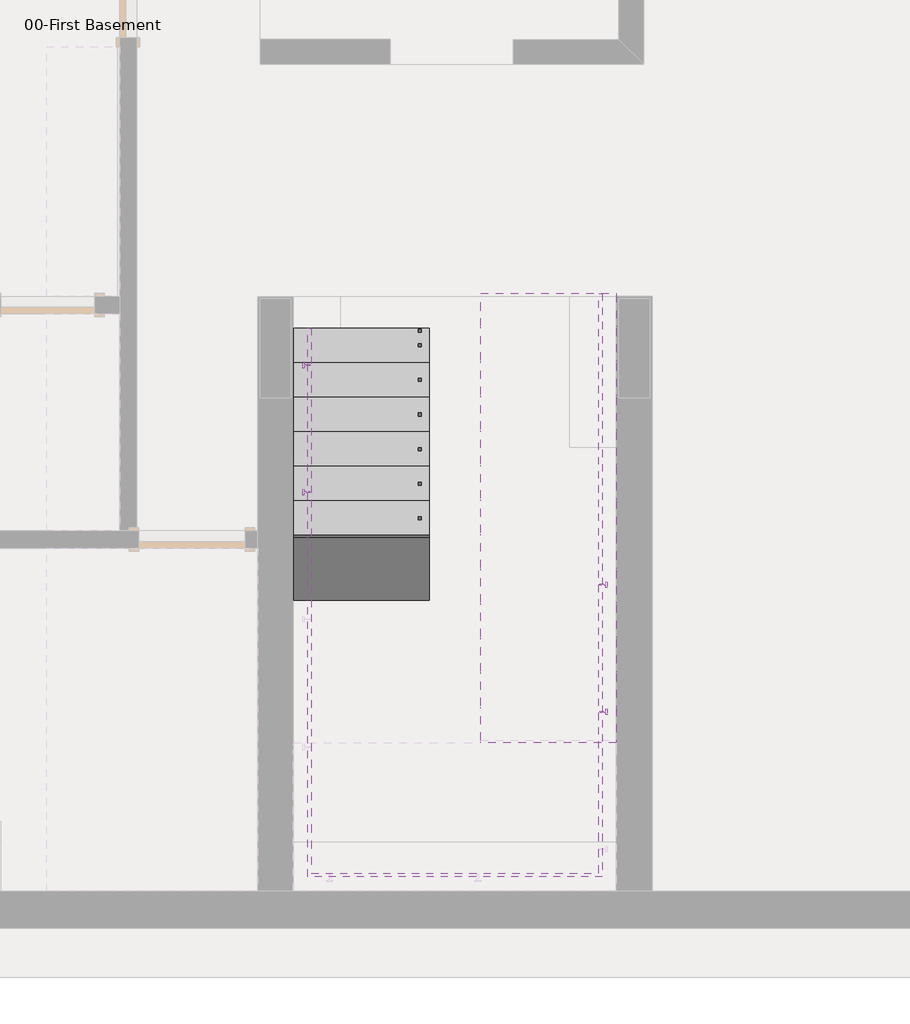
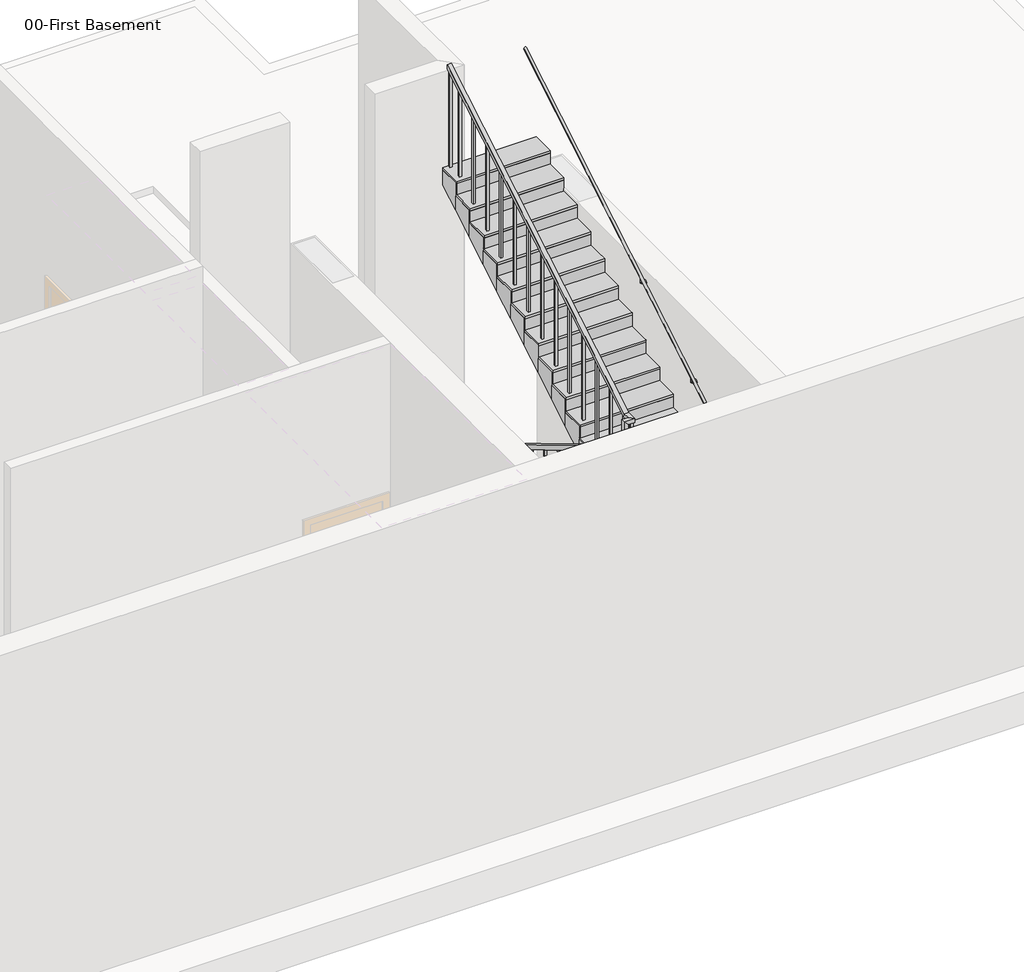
# One storey, part 5 of 5: 4 proxies, 2 railings, 2 stair flights.
"""IFC4 building model written with IfcOpenShell, lengths in millimetres."""

from ifc_helpers import new_model, si_unit, frame, origin, place, context, project, spatial, polyline, ellipse_curve, outline, extrude, faceted_brep, transform, mapped, element, save
from ifc_brep_helpers import plane_surface, cylinder_surface, advanced_brep
from components import m_support_metal_circular_m_support_metal_circular_cf76aa7a

model = new_model("IFC4")

# Units and contexts
model_context = context("Model", 3, world=origin())
ifc_project = project(units=[si_unit("LENGTHUNIT", "METRE", prefix="MILLI")], contexts=[model_context])

# Site, building, storey
site = spatial("IfcSite", under=ifc_project)
building = spatial("IfcBuilding", under=site)
storey = spatial("IfcBuildingStorey", under=building, Name="00-First Basement", Elevation=-4350.0)

# Proxies
placement = place(None, origin())
m_support_metal_circular_m_support_metal_circular_shape = m_support_metal_circular_m_support_metal_circular_cf76aa7a(model_context)
element("IfcBuildingElementProxy", 1, Name="M_Support - Metal - Circular : M_Support - Metal - Circular", ObjectType="M_Support - Metal - Circular : M_Support - Metal - Circular", at=placement, inside=storey, context=model_context, shape_type="MappedRepresentation", body=[
    mapped(m_support_metal_circular_m_support_metal_circular_shape, transform((-8914.3044414, -4401.6462217, -2934.2313798), x_axis=(0.0, 1.0, 0.0), y_axis=(-1.0, 0.0, 0.0), z_axis=(0.0, 0.0, 1.0))),
])
element("IfcBuildingElementProxy", 2, Name="M_Support - Metal - Circular : M_Support - Metal - Circular", ObjectType="M_Support - Metal - Circular : M_Support - Metal - Circular", at=placement, inside=storey, context=model_context, shape_type="MappedRepresentation", body=[
    mapped(m_support_metal_circular_m_support_metal_circular_shape, transform((-8914.3044414, -5431.7596977, -2318.7102781), x_axis=(0.0, 1.0, 0.0), y_axis=(-1.0, 0.0, 0.0), z_axis=(0.0, 0.0, 1.0))),
])
element("IfcBuildingElementProxy", 3, Name="M_Support - Metal - Circular : M_Support - Metal - Circular", ObjectType="M_Support - Metal - Circular : M_Support - Metal - Circular", at=placement, inside=storey, context=model_context, shape_type="MappedRepresentation", body=[
    mapped(m_support_metal_circular_m_support_metal_circular_shape, transform((-6558.2802351, -7211.9866496, -787.7165407), x_axis=(0.0, -1.0, 0.0), y_axis=(1.0, 0.0, 0.0), z_axis=(0.0, 0.0, 1.0))),
])
element("IfcBuildingElementProxy", 4, Name="M_Support - Metal - Circular : M_Support - Metal - Circular", ObjectType="M_Support - Metal - Circular : M_Support - Metal - Circular", at=placement, inside=storey, context=model_context, shape_type="MappedRepresentation", body=[
    mapped(m_support_metal_circular_m_support_metal_circular_shape, transform((-6558.2802351, -6181.8731737, -172.195439), x_axis=(0.0, -1.0, 0.0), y_axis=(1.0, 0.0, 0.0), z_axis=(0.0, 0.0, 1.0))),
])

# Railings
element("IfcRailing", 5, ObjectType="1100mm", at=placement, inside=storey, context=model_context, shape_type="SolidModel", body=[
    faceted_brep([(-7995.1044414, -4102.9805769, -2982.6923077), (-7995.1044414, -4102.9805769, -3040.9383179), (-8045.1044414, -4102.9805769, -3040.9383179), (-8045.1044414, -4102.9805769, -2982.6923077), (-7995.1044414, -7462.9805769, -975.0), (-7995.1044414, -7476.7807962, -1025.0), (-8045.1044414, -7476.7807962, -1025.0), (-8045.1044414, -7462.9805769, -975.0), (-7995.1044414, -7513.3805769, -975.0), (-7995.1044414, -7513.3805769, -1025.0), (-8045.1044414, -7563.3805769, -1025.0), (-8045.1044414, -7563.3805769, -975.0), (-7552.4802351, -7513.3805769, -975.0), (-7502.4802351, -7513.3805769, -1025.0), (-7502.4802351, -7563.3805769, -1025.0), (-7552.4802351, -7563.3805769, -975.0), (-7552.4802351, -7513.3805769, -792.9931319), (-7502.4802351, -7513.3805769, -842.9931319), (-7502.4802351, -7563.3805769, -842.9931319), (-7552.4802351, -7563.3805769, -792.9931319), (-7477.4802351, -7513.3805769, -792.9931319), (-7477.4802351, -7513.3805769, -842.9931319), (-7427.4802351, -7563.3805769, -842.9931319), (-7427.4802351, -7563.3805769, -792.9931319), (-7477.4802351, -7438.3805769, -792.9931319), (-7477.4802351, -7424.5803576, -842.9931319), (-7427.4802351, -7424.5803576, -842.9931319), (-7427.4802351, -7438.3805769, -792.9931319), (-7477.4802351, -3822.9805769, 1367.3076923), (-7427.4802351, -3822.9805769, 1367.3076923), (-7427.4802351, -3822.9805769, 1309.0616821), (-7477.4802351, -3822.9805769, 1309.0616821)], [[[0, 1, 2, 3]], [[1, 0, 4, 5]], [[2, 1, 5, 6]], [[3, 2, 6, 7]], [[0, 3, 7, 4]], [[5, 4, 8, 9]], [[6, 5, 9, 10]], [[7, 6, 10, 11]], [[4, 7, 11, 8]], [[9, 8, 12, 13]], [[10, 9, 13, 14]], [[11, 10, 14, 15]], [[8, 11, 15, 12]], [[13, 12, 16, 17]], [[14, 13, 17, 18]], [[15, 14, 18, 19]], [[12, 15, 19, 16]], [[17, 16, 20, 21]], [[18, 17, 21, 22]], [[19, 18, 22, 23]], [[16, 19, 23, 20]], [[21, 20, 24, 25]], [[22, 21, 25, 26]], [[23, 22, 26, 27]], [[20, 23, 27, 24]], [[28, 29, 30, 31]], [[25, 24, 28, 31]], [[26, 25, 31, 30]], [[27, 26, 30, 29]], [[24, 27, 29, 28]]]),
    extrude(outline(polyline([(-4050.8805769, 1172.8851711), (-4025.8805769, 1187.823358), (-4025.8805769, 100.0), (-4050.8805769, 100.0), (-4050.8805769, 1172.8851711)])), frame((-7464.9802351, 0.0, 0.0), z_axis=(1.0, 0.0, 0.0), x_axis=(0.0, 1.0, 0.0)), (0.0, 0.0, 1.0), 25.0),
    extrude(outline(polyline([(-4330.8805769, 1005.5774788), (-4305.8805769, 1020.5156657), (-4305.8805769, -67.3076923), (-4330.8805769, -67.3076923), (-4330.8805769, 1005.5774788)])), frame((-7464.9802351, 0.0, 0.0), z_axis=(1.0, 0.0, 0.0), x_axis=(0.0, 1.0, 0.0)), (0.0, 0.0, 1.0), 25.0),
    extrude(outline(polyline([(-4610.8805769, 838.2697865), (-4585.8805769, 853.2079733), (-4585.8805769, -234.6153846), (-4610.8805769, -234.6153846), (-4610.8805769, 838.2697865)])), frame((-7464.9802351, 0.0, 0.0), z_axis=(1.0, 0.0, 0.0), x_axis=(0.0, 1.0, 0.0)), (0.0, 0.0, 1.0), 25.0),
    extrude(outline(polyline([(-4890.8805769, 670.9620942), (-4865.8805769, 685.900281), (-4865.8805769, -401.9230769), (-4890.8805769, -401.9230769), (-4890.8805769, 670.9620942)])), frame((-7464.9802351, 0.0, 0.0), z_axis=(1.0, 0.0, 0.0), x_axis=(0.0, 1.0, 0.0)), (0.0, 0.0, 1.0), 25.0),
    extrude(outline(polyline([(-5170.8805769, 503.6544019), (-5145.8805769, 518.5925887), (-5145.8805769, -569.2307692), (-5170.8805769, -569.2307692), (-5170.8805769, 503.6544019)])), frame((-7464.9802351, 0.0, 0.0), z_axis=(1.0, 0.0, 0.0), x_axis=(0.0, 1.0, 0.0)), (0.0, 0.0, 1.0), 25.0),
    extrude(outline(polyline([(-5450.8805769, 336.3467096), (-5425.8805769, 351.2848964), (-5425.8805769, -736.5384615), (-5450.8805769, -736.5384615), (-5450.8805769, 336.3467096)])), frame((-7464.9802351, 0.0, 0.0), z_axis=(1.0, 0.0, 0.0), x_axis=(0.0, 1.0, 0.0)), (0.0, 0.0, 1.0), 25.0),
    extrude(outline(polyline([(-5730.8805769, 169.0390173), (-5705.8805769, 183.9772041), (-5705.8805769, -903.8461538), (-5730.8805769, -903.8461538), (-5730.8805769, 169.0390173)])), frame((-7464.9802351, 0.0, 0.0), z_axis=(1.0, 0.0, 0.0), x_axis=(0.0, 1.0, 0.0)), (0.0, 0.0, 1.0), 25.0),
    extrude(outline(polyline([(-6010.8805769, 1.731325), (-5985.8805769, 16.6695118), (-5985.8805769, -1071.1538462), (-6010.8805769, -1071.1538462), (-6010.8805769, 1.731325)])), frame((-7464.9802351, 0.0, 0.0), z_axis=(1.0, 0.0, 0.0), x_axis=(0.0, 1.0, 0.0)), (0.0, 0.0, 1.0), 25.0),
    extrude(outline(polyline([(-6290.8805769, -165.5763673), (-6265.8805769, -150.6381805), (-6265.8805769, -1238.4615385), (-6290.8805769, -1238.4615385), (-6290.8805769, -165.5763673)])), frame((-7464.9802351, 0.0, 0.0), z_axis=(1.0, 0.0, 0.0), x_axis=(0.0, 1.0, 0.0)), (0.0, 0.0, 1.0), 25.0),
    extrude(outline(polyline([(-6570.8805769, -332.8840596), (-6545.8805769, -317.9458728), (-6545.8805769, -1405.7692308), (-6570.8805769, -1405.7692308), (-6570.8805769, -332.8840596)])), frame((-7464.9802351, 0.0, 0.0), z_axis=(1.0, 0.0, 0.0), x_axis=(0.0, 1.0, 0.0)), (0.0, 0.0, 1.0), 25.0),
    extrude(outline(polyline([(-6850.8805769, -500.1917519), (-6825.8805769, -485.2535651), (-6825.8805769, -1573.0769231), (-6850.8805769, -1573.0769231), (-6850.8805769, -500.1917519)])), frame((-7464.9802351, 0.0, 0.0), z_axis=(1.0, 0.0, 0.0), x_axis=(0.0, 1.0, 0.0)), (0.0, 0.0, 1.0), 25.0),
    extrude(outline(polyline([(-7130.8805769, -667.4994442), (-7105.8805769, -652.5612574), (-7105.8805769, -1740.3846154), (-7130.8805769, -1740.3846154), (-7130.8805769, -667.4994442)])), frame((-7464.9802351, 0.0, 0.0), z_axis=(1.0, 0.0, 0.0), x_axis=(0.0, 1.0, 0.0)), (0.0, 0.0, 1.0), 25.0),
    extrude(outline(polyline([(-7410.8805769, -834.8071365), (-7385.8805769, -819.8689497), (-7385.8805769, -1907.6923077), (-7410.8805769, -1907.6923077), (-7410.8805769, -834.8071365)])), frame((-7464.9802351, 0.0, 0.0), z_axis=(1.0, 0.0, 0.0), x_axis=(0.0, 1.0, 0.0)), (0.0, 0.0, 1.0), 25.0),
    extrude(outline(polyline([(-7612.6044414, -7525.8805769), (-7587.6044414, -7525.8805769), (-7587.6044414, -7550.8805769), (-7612.6044414, -7550.8805769), (-7612.6044414, -7525.8805769)])), frame((0.0, 0.0, -2075.0), z_axis=(0.0, 0.0, 1.0), x_axis=(1.0, 0.0, 0.0)), (0.0, 0.0, 1.0), 1050.0),
    extrude(outline(polyline([(-7892.6044414, -7525.8805769), (-7867.6044414, -7525.8805769), (-7867.6044414, -7550.8805769), (-7892.6044414, -7550.8805769), (-7892.6044414, -7525.8805769)])), frame((0.0, 0.0, -2075.0), z_axis=(0.0, 0.0, 1.0), x_axis=(1.0, 0.0, 0.0)), (0.0, 0.0, 1.0), 1050.0),
    extrude(outline(polyline([(-7310.4805769, -2242.3076923), (-7335.4805769, -2242.3076923), (-7335.4805769, -1109.4307629), (-7310.4805769, -1124.3689497), (-7310.4805769, -2242.3076923)])), frame((-8032.6044414, 0.0, 0.0), z_axis=(1.0, 0.0, 0.0), x_axis=(0.0, 1.0, 0.0)), (0.0, 0.0, 1.0), 25.0),
    extrude(outline(polyline([(-7030.4805769, -2409.6153846), (-7055.4805769, -2409.6153846), (-7055.4805769, -1276.7384552), (-7030.4805769, -1291.676642), (-7030.4805769, -2409.6153846)])), frame((-8032.6044414, 0.0, 0.0), z_axis=(1.0, 0.0, 0.0), x_axis=(0.0, 1.0, 0.0)), (0.0, 0.0, 1.0), 25.0),
    extrude(outline(polyline([(-6750.4805769, -2576.9230769), (-6775.4805769, -2576.9230769), (-6775.4805769, -1444.0461475), (-6750.4805769, -1458.9843343), (-6750.4805769, -2576.9230769)])), frame((-8032.6044414, 0.0, 0.0), z_axis=(1.0, 0.0, 0.0), x_axis=(0.0, 1.0, 0.0)), (0.0, 0.0, 1.0), 25.0),
    extrude(outline(polyline([(-6470.4805769, -2744.2307692), (-6495.4805769, -2744.2307692), (-6495.4805769, -1611.3538398), (-6470.4805769, -1626.2920267), (-6470.4805769, -2744.2307692)])), frame((-8032.6044414, 0.0, 0.0), z_axis=(1.0, 0.0, 0.0), x_axis=(0.0, 1.0, 0.0)), (0.0, 0.0, 1.0), 25.0),
    extrude(outline(polyline([(-6190.4805769, -2911.5384615), (-6215.4805769, -2911.5384615), (-6215.4805769, -1778.6615322), (-6190.4805769, -1793.599719), (-6190.4805769, -2911.5384615)])), frame((-8032.6044414, 0.0, 0.0), z_axis=(1.0, 0.0, 0.0), x_axis=(0.0, 1.0, 0.0)), (0.0, 0.0, 1.0), 25.0),
    extrude(outline(polyline([(-5910.4805769, -3078.8461538), (-5935.4805769, -3078.8461538), (-5935.4805769, -1945.9692245), (-5910.4805769, -1960.9074113), (-5910.4805769, -3078.8461538)])), frame((-8032.6044414, 0.0, 0.0), z_axis=(1.0, 0.0, 0.0), x_axis=(0.0, 1.0, 0.0)), (0.0, 0.0, 1.0), 25.0),
    extrude(outline(polyline([(-5630.4805769, -3246.1538462), (-5655.4805769, -3246.1538462), (-5655.4805769, -2113.2769168), (-5630.4805769, -2128.2151036), (-5630.4805769, -3246.1538462)])), frame((-8032.6044414, 0.0, 0.0), z_axis=(1.0, 0.0, 0.0), x_axis=(0.0, 1.0, 0.0)), (0.0, 0.0, 1.0), 25.0),
    extrude(outline(polyline([(-5350.4805769, -3413.4615385), (-5375.4805769, -3413.4615385), (-5375.4805769, -2280.5846091), (-5350.4805769, -2295.5227959), (-5350.4805769, -3413.4615385)])), frame((-8032.6044414, 0.0, 0.0), z_axis=(1.0, 0.0, 0.0), x_axis=(0.0, 1.0, 0.0)), (0.0, 0.0, 1.0), 25.0),
    extrude(outline(polyline([(-5070.4805769, -3580.7692308), (-5095.4805769, -3580.7692308), (-5095.4805769, -2447.8923014), (-5070.4805769, -2462.8304882), (-5070.4805769, -3580.7692308)])), frame((-8032.6044414, 0.0, 0.0), z_axis=(1.0, 0.0, 0.0), x_axis=(0.0, 1.0, 0.0)), (0.0, 0.0, 1.0), 25.0),
    extrude(outline(polyline([(-4790.4805769, -3748.0769231), (-4815.4805769, -3748.0769231), (-4815.4805769, -2615.1999937), (-4790.4805769, -2630.1381805), (-4790.4805769, -3748.0769231)])), frame((-8032.6044414, 0.0, 0.0), z_axis=(1.0, 0.0, 0.0), x_axis=(0.0, 1.0, 0.0)), (0.0, 0.0, 1.0), 25.0),
    extrude(outline(polyline([(-4510.4805769, -3915.3846154), (-4535.4805769, -3915.3846154), (-4535.4805769, -2782.507686), (-4510.4805769, -2797.4458728), (-4510.4805769, -3915.3846154)])), frame((-8032.6044414, 0.0, 0.0), z_axis=(1.0, 0.0, 0.0), x_axis=(0.0, 1.0, 0.0)), (0.0, 0.0, 1.0), 25.0),
    extrude(outline(polyline([(-4230.4805769, -4082.6923077), (-4255.4805769, -4082.6923077), (-4255.4805769, -2949.8153783), (-4230.4805769, -2964.7535651), (-4230.4805769, -4082.6923077)])), frame((-8032.6044414, 0.0, 0.0), z_axis=(1.0, 0.0, 0.0), x_axis=(0.0, 1.0, 0.0)), (0.0, 0.0, 1.0), 25.0),
    extrude(outline(polyline([(-7464.9802351, -7550.8805769), (-7464.9802351, -7525.8805769), (-7439.9802351, -7525.8805769), (-7439.9802351, -7550.8805769), (-7464.9802351, -7550.8805769)])), frame((0.0, 0.0, -2075.0), z_axis=(0.0, 0.0, 1.0), x_axis=(1.0, 0.0, 0.0)), (0.0, 0.0, 1.0), 1232.0068681),
    extrude(outline(polyline([(-8007.6044414, -7525.8805769), (-8007.6044414, -7550.8805769), (-8032.6044414, -7550.8805769), (-8032.6044414, -7525.8805769), (-8007.6044414, -7525.8805769)])), frame((0.0, 0.0, -2075.0), z_axis=(0.0, 0.0, 1.0), x_axis=(1.0, 0.0, 0.0)), (0.0, 0.0, 1.0), 1050.0),
    extrude(outline(polyline([(-7450.4805769, -2075.0), (-7475.4805769, -2075.0), (-7475.4805769, -1025.7769168), (-7450.4805769, -1040.7151036), (-7450.4805769, -2075.0)])), frame((-8032.6044414, 0.0, 0.0), z_axis=(1.0, 0.0, 0.0), x_axis=(0.0, 1.0, 0.0)), (0.0, 0.0, 1.0), 25.0),
    extrude(outline(polyline([(-3855.4805769, 1289.6420393), (-3830.4805769, 1304.5802261), (-3830.4805769, 100.0), (-3855.4805769, 100.0), (-3855.4805769, 1289.6420393)])), frame((-7464.9802351, 0.0, 0.0), z_axis=(1.0, 0.0, 0.0), x_axis=(0.0, 1.0, 0.0)), (0.0, 0.0, 1.0), 25.0),
    extrude(outline(polyline([(-4110.4805769, -4082.6923077), (-4135.4805769, -4082.6923077), (-4135.4805769, -3021.518675), (-4110.4805769, -3036.4568618), (-4110.4805769, -4082.6923077)])), frame((-8032.6044414, 0.0, 0.0), z_axis=(1.0, 0.0, 0.0), x_axis=(0.0, 1.0, 0.0)), (0.0, 0.0, 1.0), 25.0),
])
element("IfcRailing", 6, ObjectType="Wall Hang", at=placement, inside=storey, context=model_context, shape_type="AdvancedBrep", body=[
    advanced_brep(
    [(-8929.3044414, -4102.9805769, -3100.1661107), (-8899.3044414, -4102.9805769, -3100.1661107), (-8929.3044414, -7467.1206427, -1090.0), (-8899.3044414, -7467.1206427, -1090.0), (-8929.3044414, -8547.5805769, -1090.0), (-8899.3044414, -8517.5805769, -1090.0), (-6543.2802351, -8547.5805769, -1090.0), (-6573.2802351, -8517.5805769, -1090.0), (-6543.2802351, -7738.8405111, -1090.0), (-6573.2802351, -7738.8405111, -1090.0), (-6543.2802351, -3822.9805769, 1249.8338893), (-6573.2802351, -3822.9805769, 1249.8338893)],
    [
        (0, 1, ellipse_curve(frame((-8914.3044414, -4102.9805769, -3100.1661107), z_axis=(0.0, 1.0, 0.0), x_axis=(0.0, 0.0, -1.0)), 17.4738031, 15.0)),
        (1, 0, ellipse_curve(frame((-8914.3044414, -4102.9805769, -3100.1661107), z_axis=(0.0, 1.0, 0.0), x_axis=(0.0, 0.0, -1.0)), 17.4738031, 15.0)),
        (0, 2),
        (2, 3, ellipse_curve(frame((-8914.3044414, -7467.1206427, -1090.0), z_axis=(0.0, 0.9639574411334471, -0.26605648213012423), x_axis=(0.0, -0.2660564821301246, -0.9639574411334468)), 15.560853, 15.0)),
        (3, 1),
        (3, 2, ellipse_curve(frame((-8914.3044414, -7467.1206427, -1090.0), z_axis=(0.0, 0.9639574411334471, -0.26605648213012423), x_axis=(0.0, -0.2660564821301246, -0.9639574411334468)), 15.560853, 15.0)),
        (2, 4),
        (4, 5, ellipse_curve(frame((-8914.3044414, -8532.5805769, -1090.0), z_axis=(-0.7071067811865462, 0.7071067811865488, 0.0), x_axis=(0.7071067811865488, 0.7071067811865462, 0.0)), 21.2132034, 15.0)),
        (5, 3),
        (5, 4, ellipse_curve(frame((-8914.3044414, -8532.5805769, -1090.0), z_axis=(-0.7071067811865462, 0.7071067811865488, 0.0), x_axis=(0.7071067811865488, 0.7071067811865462, 0.0)), 21.2132034, 15.0)),
        (4, 6),
        (6, 7, ellipse_curve(frame((-6558.2802351, -8532.5805769, -1090.0), z_axis=(-0.7071067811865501, -0.7071067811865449, 0.0), x_axis=(-0.7071067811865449, 0.7071067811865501, 0.0)), 21.2132034, 15.0)),
        (7, 5),
        (7, 6, ellipse_curve(frame((-6558.2802351, -8532.5805769, -1090.0), z_axis=(-0.7071067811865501, -0.7071067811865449, 0.0), x_axis=(-0.7071067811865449, 0.7071067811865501, 0.0)), 21.2132034, 15.0)),
        (6, 8),
        (8, 9, ellipse_curve(frame((-6558.2802351, -7738.8405111, -1090.0), z_axis=(0.0, -0.963957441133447, -0.266056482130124), x_axis=(0.0, -0.2660564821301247, 0.9639574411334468)), 15.560853, 15.0)),
        (9, 7),
        (9, 8, ellipse_curve(frame((-6558.2802351, -7738.8405111, -1090.0), z_axis=(0.0, -0.963957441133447, -0.266056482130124), x_axis=(0.0, -0.2660564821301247, 0.9639574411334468)), 15.560853, 15.0)),
        (10, 11, ellipse_curve(frame((-6558.2802351, -3822.9805769, 1249.8338893), z_axis=(0.0, 1.0, 0.0), x_axis=(0.0, 0.0, -1.0)), 17.4738031, 15.0)),
        (11, 10, ellipse_curve(frame((-6558.2802351, -3822.9805769, 1249.8338893), z_axis=(0.0, 1.0, 0.0), x_axis=(0.0, 0.0, -1.0)), 17.4738031, 15.0)),
        (8, 10),
        (11, 9),
    ],
    [
        plane_surface(frame((-8914.3044414, -4102.9805769, -3082.6923077), z_axis=(0.0, 1.0, 0.0), x_axis=(0.0, 0.0, -1.0))),
        cylinder_surface(frame((-8914.3044414, -4110.6745907, -3095.5687261), z_axis=(0.0, 0.8584278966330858, -0.5129342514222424), x_axis=(1.0, 0.0, 0.0)), 15.0),
        cylinder_surface(frame((-8914.3044414, -7462.9805769, -1090.0), z_axis=(0.0, 1.0, 0.0), x_axis=(1.0, 0.0, 0.0)), 15.0),
        cylinder_surface(frame((-8914.3044414, -8532.5805769, -1090.0), z_axis=(-1.0, 0.0, 0.0), x_axis=(0.0, 1.0, 0.0)), 15.0),
        cylinder_surface(frame((-6558.2802351, -8532.5805769, -1090.0), z_axis=(0.0, -1.0, 0.0), x_axis=(-1.0, 0.0, 0.0)), 15.0),
        plane_surface(frame((-6558.2802351, -3822.9805769, 1267.3076923), z_axis=(0.0, 1.0, 0.0), x_axis=(0.0, 0.0, 1.0))),
        cylinder_surface(frame((-6558.2802351, -7735.2865631, -1087.8764184), z_axis=(0.0, -0.858427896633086, -0.512934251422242), x_axis=(-1.0, 0.0, 0.0)), 15.0),
    ],
    [
        (0, [[1, 2]]),
        (1, [[-1, 3, 4, 5]]),
        (1, [[-2, -5, 6, -3]]),
        (2, [[-4, 7, 8, 9]]),
        (2, [[-6, -9, 10, -7]]),
        (3, [[-8, 11, 12, 13]]),
        (3, [[-10, -13, 14, -11]]),
        (4, [[-12, 15, 16, 17]]),
        (4, [[-14, -17, 18, -15]]),
        (5, [[19, 20]]),
        (6, [[-16, 21, -20, 22]]),
        (6, [[-18, -22, -19, -21]]),
    ],
),
])

# Stair flights
element("IfcStairFlight", 7, ObjectType="150mm Depth", at=placement, inside=storey, context=model_context, shape_type="SolidModel", body=[
    faceted_brep([(-7944.7044414, -4402.9805769, -4112.6923077), (-7944.7044414, -4122.9805769, -4112.6923077), (-9044.7044414, -4122.9805769, -4112.6923077), (-9044.7044414, -4402.9805769, -4112.6923077), (-7944.7044414, -4402.9805769, -4287.4303382), (-7944.7044414, -4298.2662924, -4350.0), (-7944.7044414, -4122.9805769, -4350.0), (-9044.7044414, -4122.9805769, -4350.0), (-9044.7044414, -4298.2662924, -4350.0), (-9044.7044414, -4402.9805769, -4287.4303382), (-7944.7044414, -4682.9805769, -3945.3846154), (-7944.7044414, -4402.9805769, -3945.3846154), (-9044.7044414, -4402.9805769, -3945.3846154), (-9044.7044414, -4682.9805769, -3945.3846154), (-7944.7044414, -4682.9805769, -4120.1226459), (-9044.7044414, -4682.9805769, -4120.1226459), (-7944.7044414, -4962.9805769, -3778.0769231), (-7944.7044414, -4682.9805769, -3778.0769231), (-9044.7044414, -4682.9805769, -3778.0769231), (-9044.7044414, -4962.9805769, -3778.0769231), (-7944.7044414, -4962.9805769, -3952.8149536), (-9044.7044414, -4962.9805769, -3952.8149536), (-7944.7044414, -5242.9805769, -3610.7692308), (-7944.7044414, -4962.9805769, -3610.7692308), (-9044.7044414, -4962.9805769, -3610.7692308), (-9044.7044414, -5242.9805769, -3610.7692308), (-7944.7044414, -5242.9805769, -3785.5072613), (-9044.7044414, -5242.9805769, -3785.5072613), (-7944.7044414, -5522.9805769, -3443.4615385), (-7944.7044414, -5242.9805769, -3443.4615385), (-9044.7044414, -5242.9805769, -3443.4615385), (-9044.7044414, -5522.9805769, -3443.4615385), (-7944.7044414, -5522.9805769, -3618.199569), (-9044.7044414, -5522.9805769, -3618.199569), (-7944.7044414, -5802.9805769, -3276.1538462), (-7944.7044414, -5522.9805769, -3276.1538462), (-9044.7044414, -5522.9805769, -3276.1538462), (-9044.7044414, -5802.9805769, -3276.1538462), (-7944.7044414, -5802.9805769, -3450.8918767), (-9044.7044414, -5802.9805769, -3450.8918767), (-7944.7044414, -6082.9805769, -3108.8461538), (-7944.7044414, -5802.9805769, -3108.8461538), (-9044.7044414, -5802.9805769, -3108.8461538), (-9044.7044414, -6082.9805769, -3108.8461538), (-7944.7044414, -6082.9805769, -3283.5841844), (-9044.7044414, -6082.9805769, -3283.5841844), (-7944.7044414, -6362.9805769, -2941.5384615), (-7944.7044414, -6082.9805769, -2941.5384615), (-9044.7044414, -6082.9805769, -2941.5384615), (-9044.7044414, -6362.9805769, -2941.5384615), (-7944.7044414, -6362.9805769, -3116.2764921), (-9044.7044414, -6362.9805769, -3116.2764921), (-7944.7044414, -6642.9805769, -2774.2307692), (-7944.7044414, -6362.9805769, -2774.2307692), (-9044.7044414, -6362.9805769, -2774.2307692), (-9044.7044414, -6642.9805769, -2774.2307692), (-7944.7044414, -6642.9805769, -2948.9687997), (-9044.7044414, -6642.9805769, -2948.9687997), (-7944.7044414, -6922.9805769, -2606.9230769), (-7944.7044414, -6642.9805769, -2606.9230769), (-9044.7044414, -6642.9805769, -2606.9230769), (-9044.7044414, -6922.9805769, -2606.9230769), (-7944.7044414, -6922.9805769, -2781.6611074), (-9044.7044414, -6922.9805769, -2781.6611074), (-7944.7044414, -7202.9805769, -2439.6153846), (-7944.7044414, -6922.9805769, -2439.6153846), (-9044.7044414, -6922.9805769, -2439.6153846), (-9044.7044414, -7202.9805769, -2439.6153846), (-7944.7044414, -7202.9805769, -2614.3534151), (-9044.7044414, -7202.9805769, -2614.3534151), (-7944.7044414, -7482.9805769, -2447.0457228), (-9044.7044414, -7482.9805769, -2447.0457228), (-9044.7044414, -7462.9805769, -2458.9962723), (-7944.7044414, -7202.9805769, -2272.3076923), (-9044.7044414, -7202.9805769, -2272.3076923), (-9044.7044414, -7462.9805769, -2272.3076923), (-9044.7044414, -7482.9805769, -2272.3076923), (-7944.7044414, -7482.9805769, -2272.3076923), (-7944.7044414, -7462.9805769, -2272.3076923), (-7944.7044414, -7482.9805769, -2405.0)], [[[0, 1, 2, 3]], [[1, 0, 4, 5, 6]], [[2, 1, 6, 7]], [[3, 2, 7, 8, 9]], [[10, 11, 12, 13]], [[11, 10, 14, 4, 0]], [[0, 3, 12, 11]], [[13, 12, 3, 9, 15]], [[16, 17, 18, 19]], [[17, 16, 20, 14, 10]], [[10, 13, 18, 17]], [[19, 18, 13, 15, 21]], [[22, 23, 24, 25]], [[23, 22, 26, 20, 16]], [[16, 19, 24, 23]], [[25, 24, 19, 21, 27]], [[28, 29, 30, 31]], [[29, 28, 32, 26, 22]], [[22, 25, 30, 29]], [[31, 30, 25, 27, 33]], [[34, 35, 36, 37]], [[35, 34, 38, 32, 28]], [[28, 31, 36, 35]], [[37, 36, 31, 33, 39]], [[40, 41, 42, 43]], [[41, 40, 44, 38, 34]], [[34, 37, 42, 41]], [[43, 42, 37, 39, 45]], [[46, 47, 48, 49]], [[47, 46, 50, 44, 40]], [[40, 43, 48, 47]], [[49, 48, 43, 45, 51]], [[52, 53, 54, 55]], [[53, 52, 56, 50, 46]], [[46, 49, 54, 53]], [[55, 54, 49, 51, 57]], [[58, 59, 60, 61]], [[59, 58, 62, 56, 52]], [[52, 55, 60, 59]], [[61, 60, 55, 57, 63]], [[64, 65, 66, 67]], [[65, 64, 68, 62, 58]], [[58, 61, 66, 65]], [[67, 66, 61, 63, 69]], [[7, 6, 5, 8]], [[8, 5, 4, 14, 20, 26, 32, 38, 44, 50, 56, 62, 68, 70, 71, 72, 69, 63, 57, 51, 45, 39, 33, 27, 21, 15, 9]], [[73, 74, 75, 76, 77, 78]], [[64, 73, 78, 77, 79, 70, 68]], [[64, 67, 74, 73]], [[75, 74, 67, 69, 72]], [[76, 75, 72, 71]], [[77, 76, 71, 70, 79]]]),
    extrude(outline(polyline([(-9044.7044414, -4122.9805769), (-9044.7044414, -4102.9805769), (-7944.7044414, -4102.9805769), (-7944.7044414, -4122.9805769), (-9044.7044414, -4122.9805769)])), frame((0.0, 0.0, -4250.0), z_axis=(0.0, 0.0, 1.0), x_axis=(1.0, 0.0, 0.0)), (0.0, 0.0, 1.0), 137.3076923),
    extrude(outline(polyline([(-7944.7044414, -4402.9805769), (-9044.7044414, -4402.9805769), (-9044.7044414, -4102.9805769), (-7944.7044414, -4102.9805769), (-7944.7044414, -4402.9805769)])), frame((0.0, 0.0, -4112.6923077), z_axis=(0.0, 0.0, 1.0), x_axis=(1.0, 0.0, 0.0)), (0.0, 0.0, 1.0), 30.0),
    extrude(outline(polyline([(-9044.7044414, -7482.9805769), (-9044.7044414, -7462.9805769), (-7944.7044414, -7462.9805769), (-7944.7044414, -7482.9805769), (-9044.7044414, -7482.9805769)])), frame((0.0, 0.0, -2242.3076923), z_axis=(0.0, 0.0, 1.0), x_axis=(1.0, 0.0, 0.0)), (0.0, 0.0, 1.0), 137.3076923),
    extrude(outline(polyline([(-9044.7044414, -4402.9805769), (-9044.7044414, -4382.9805769), (-7944.7044414, -4382.9805769), (-7944.7044414, -4402.9805769), (-9044.7044414, -4402.9805769)])), frame((0.0, 0.0, -4082.6923077), z_axis=(0.0, 0.0, 1.0), x_axis=(1.0, 0.0, 0.0)), (0.0, 0.0, 1.0), 137.3076923),
    extrude(outline(polyline([(-7944.7044414, -4682.9805769), (-9044.7044414, -4682.9805769), (-9044.7044414, -4382.9805769), (-7944.7044414, -4382.9805769), (-7944.7044414, -4682.9805769)])), frame((0.0, 0.0, -3945.3846154), z_axis=(0.0, 0.0, 1.0), x_axis=(1.0, 0.0, 0.0)), (0.0, 0.0, 1.0), 30.0),
    extrude(outline(polyline([(-9044.7044414, -4682.9805769), (-9044.7044414, -4662.9805769), (-7944.7044414, -4662.9805769), (-7944.7044414, -4682.9805769), (-9044.7044414, -4682.9805769)])), frame((0.0, 0.0, -3915.3846154), z_axis=(0.0, 0.0, 1.0), x_axis=(1.0, 0.0, 0.0)), (0.0, 0.0, 1.0), 137.3076923),
    extrude(outline(polyline([(-7944.7044414, -4962.9805769), (-9044.7044414, -4962.9805769), (-9044.7044414, -4662.9805769), (-7944.7044414, -4662.9805769), (-7944.7044414, -4962.9805769)])), frame((0.0, 0.0, -3778.0769231), z_axis=(0.0, 0.0, 1.0), x_axis=(1.0, 0.0, 0.0)), (0.0, 0.0, 1.0), 30.0),
    extrude(outline(polyline([(-9044.7044414, -4962.9805769), (-9044.7044414, -4942.9805769), (-7944.7044414, -4942.9805769), (-7944.7044414, -4962.9805769), (-9044.7044414, -4962.9805769)])), frame((0.0, 0.0, -3748.0769231), z_axis=(0.0, 0.0, 1.0), x_axis=(1.0, 0.0, 0.0)), (0.0, 0.0, 1.0), 137.3076923),
    extrude(outline(polyline([(-7944.7044414, -5242.9805769), (-9044.7044414, -5242.9805769), (-9044.7044414, -4942.9805769), (-7944.7044414, -4942.9805769), (-7944.7044414, -5242.9805769)])), frame((0.0, 0.0, -3610.7692308), z_axis=(0.0, 0.0, 1.0), x_axis=(1.0, 0.0, 0.0)), (0.0, 0.0, 1.0), 30.0),
    extrude(outline(polyline([(-9044.7044414, -5242.9805769), (-9044.7044414, -5222.9805769), (-7944.7044414, -5222.9805769), (-7944.7044414, -5242.9805769), (-9044.7044414, -5242.9805769)])), frame((0.0, 0.0, -3580.7692308), z_axis=(0.0, 0.0, 1.0), x_axis=(1.0, 0.0, 0.0)), (0.0, 0.0, 1.0), 137.3076923),
    extrude(outline(polyline([(-7944.7044414, -5522.9805769), (-9044.7044414, -5522.9805769), (-9044.7044414, -5222.9805769), (-7944.7044414, -5222.9805769), (-7944.7044414, -5522.9805769)])), frame((0.0, 0.0, -3443.4615385), z_axis=(0.0, 0.0, 1.0), x_axis=(1.0, 0.0, 0.0)), (0.0, 0.0, 1.0), 30.0),
    extrude(outline(polyline([(-9044.7044414, -5522.9805769), (-9044.7044414, -5502.9805769), (-7944.7044414, -5502.9805769), (-7944.7044414, -5522.9805769), (-9044.7044414, -5522.9805769)])), frame((0.0, 0.0, -3413.4615385), z_axis=(0.0, 0.0, 1.0), x_axis=(1.0, 0.0, 0.0)), (0.0, 0.0, 1.0), 137.3076923),
    extrude(outline(polyline([(-7944.7044414, -5802.9805769), (-9044.7044414, -5802.9805769), (-9044.7044414, -5502.9805769), (-7944.7044414, -5502.9805769), (-7944.7044414, -5802.9805769)])), frame((0.0, 0.0, -3276.1538462), z_axis=(0.0, 0.0, 1.0), x_axis=(1.0, 0.0, 0.0)), (0.0, 0.0, 1.0), 30.0),
    extrude(outline(polyline([(-9044.7044414, -5802.9805769), (-9044.7044414, -5782.9805769), (-7944.7044414, -5782.9805769), (-7944.7044414, -5802.9805769), (-9044.7044414, -5802.9805769)])), frame((0.0, 0.0, -3246.1538462), z_axis=(0.0, 0.0, 1.0), x_axis=(1.0, 0.0, 0.0)), (0.0, 0.0, 1.0), 137.3076923),
    extrude(outline(polyline([(-7944.7044414, -6082.9805769), (-9044.7044414, -6082.9805769), (-9044.7044414, -5782.9805769), (-7944.7044414, -5782.9805769), (-7944.7044414, -6082.9805769)])), frame((0.0, 0.0, -3108.8461538), z_axis=(0.0, 0.0, 1.0), x_axis=(1.0, 0.0, 0.0)), (0.0, 0.0, 1.0), 30.0),
    extrude(outline(polyline([(-9044.7044414, -6082.9805769), (-9044.7044414, -6062.9805769), (-7944.7044414, -6062.9805769), (-7944.7044414, -6082.9805769), (-9044.7044414, -6082.9805769)])), frame((0.0, 0.0, -3078.8461538), z_axis=(0.0, 0.0, 1.0), x_axis=(1.0, 0.0, 0.0)), (0.0, 0.0, 1.0), 137.3076923),
    extrude(outline(polyline([(-7944.7044414, -6362.9805769), (-9044.7044414, -6362.9805769), (-9044.7044414, -6062.9805769), (-7944.7044414, -6062.9805769), (-7944.7044414, -6362.9805769)])), frame((0.0, 0.0, -2941.5384615), z_axis=(0.0, 0.0, 1.0), x_axis=(1.0, 0.0, 0.0)), (0.0, 0.0, 1.0), 30.0),
    extrude(outline(polyline([(-9044.7044414, -6362.9805769), (-9044.7044414, -6342.9805769), (-7944.7044414, -6342.9805769), (-7944.7044414, -6362.9805769), (-9044.7044414, -6362.9805769)])), frame((0.0, 0.0, -2911.5384615), z_axis=(0.0, 0.0, 1.0), x_axis=(1.0, 0.0, 0.0)), (0.0, 0.0, 1.0), 137.3076923),
    extrude(outline(polyline([(-7944.7044414, -6642.9805769), (-9044.7044414, -6642.9805769), (-9044.7044414, -6342.9805769), (-7944.7044414, -6342.9805769), (-7944.7044414, -6642.9805769)])), frame((0.0, 0.0, -2774.2307692), z_axis=(0.0, 0.0, 1.0), x_axis=(1.0, 0.0, 0.0)), (0.0, 0.0, 1.0), 30.0),
    extrude(outline(polyline([(-9044.7044414, -6642.9805769), (-9044.7044414, -6622.9805769), (-7944.7044414, -6622.9805769), (-7944.7044414, -6642.9805769), (-9044.7044414, -6642.9805769)])), frame((0.0, 0.0, -2744.2307692), z_axis=(0.0, 0.0, 1.0), x_axis=(1.0, 0.0, 0.0)), (0.0, 0.0, 1.0), 137.3076923),
    extrude(outline(polyline([(-7944.7044414, -6922.9805769), (-9044.7044414, -6922.9805769), (-9044.7044414, -6622.9805769), (-7944.7044414, -6622.9805769), (-7944.7044414, -6922.9805769)])), frame((0.0, 0.0, -2606.9230769), z_axis=(0.0, 0.0, 1.0), x_axis=(1.0, 0.0, 0.0)), (0.0, 0.0, 1.0), 30.0),
    extrude(outline(polyline([(-9044.7044414, -6922.9805769), (-9044.7044414, -6902.9805769), (-7944.7044414, -6902.9805769), (-7944.7044414, -6922.9805769), (-9044.7044414, -6922.9805769)])), frame((0.0, 0.0, -2576.9230769), z_axis=(0.0, 0.0, 1.0), x_axis=(1.0, 0.0, 0.0)), (0.0, 0.0, 1.0), 137.3076923),
    extrude(outline(polyline([(-7944.7044414, -7202.9805769), (-9044.7044414, -7202.9805769), (-9044.7044414, -6902.9805769), (-7944.7044414, -6902.9805769), (-7944.7044414, -7202.9805769)])), frame((0.0, 0.0, -2439.6153846), z_axis=(0.0, 0.0, 1.0), x_axis=(1.0, 0.0, 0.0)), (0.0, 0.0, 1.0), 30.0),
    extrude(outline(polyline([(-9044.7044414, -7202.9805769), (-9044.7044414, -7182.9805769), (-7944.7044414, -7182.9805769), (-7944.7044414, -7202.9805769), (-9044.7044414, -7202.9805769)])), frame((0.0, 0.0, -2409.6153846), z_axis=(0.0, 0.0, 1.0), x_axis=(1.0, 0.0, 0.0)), (0.0, 0.0, 1.0), 137.3076923),
    extrude(outline(polyline([(-7944.7044414, -7482.9805769), (-9044.7044414, -7482.9805769), (-9044.7044414, -7462.9805769), (-9044.7044414, -7182.9805769), (-7944.7044414, -7182.9805769), (-7944.7044414, -7482.9805769)])), frame((0.0, 0.0, -2272.3076923), z_axis=(0.0, 0.0, 1.0), x_axis=(1.0, 0.0, 0.0)), (0.0, 0.0, 1.0), 30.0),
])
element("IfcStairFlight", 8, ObjectType="150mm Depth", at=placement, inside=storey, context=model_context, shape_type="SolidModel", body=[
    faceted_brep([(-7527.8802351, -7162.9805769, -1937.6923077), (-7527.8802351, -7442.9805769, -1937.6923077), (-6427.8802351, -7442.9805769, -1937.6923077), (-6427.8802351, -7162.9805769, -1937.6923077), (-7527.8802351, -7162.9805769, -2112.4303382), (-7527.8802351, -7442.9805769, -2279.7380305), (-7527.8802351, -7442.9805769, -2105.0), (-6427.8802351, -7442.9805769, -2279.7380305), (-6427.8802351, -7442.9805769, -2105.0), (-6427.8802351, -7162.9805769, -2112.4303382), (-7527.8802351, -6882.9805769, -1770.3846154), (-7527.8802351, -7162.9805769, -1770.3846154), (-6427.8802351, -7162.9805769, -1770.3846154), (-6427.8802351, -6882.9805769, -1770.3846154), (-7527.8802351, -6882.9805769, -1945.1226459), (-6427.8802351, -6882.9805769, -1945.1226459), (-7527.8802351, -6602.9805769, -1603.0769231), (-7527.8802351, -6882.9805769, -1603.0769231), (-6427.8802351, -6882.9805769, -1603.0769231), (-6427.8802351, -6602.9805769, -1603.0769231), (-7527.8802351, -6602.9805769, -1777.8149536), (-6427.8802351, -6602.9805769, -1777.8149536), (-7527.8802351, -6322.9805769, -1435.7692308), (-7527.8802351, -6602.9805769, -1435.7692308), (-6427.8802351, -6602.9805769, -1435.7692308), (-6427.8802351, -6322.9805769, -1435.7692308), (-7527.8802351, -6322.9805769, -1610.5072613), (-6427.8802351, -6322.9805769, -1610.5072613), (-7527.8802351, -6042.9805769, -1268.4615385), (-7527.8802351, -6322.9805769, -1268.4615385), (-6427.8802351, -6322.9805769, -1268.4615385), (-6427.8802351, -6042.9805769, -1268.4615385), (-7527.8802351, -6042.9805769, -1443.199569), (-6427.8802351, -6042.9805769, -1443.199569), (-7527.8802351, -5762.9805769, -1101.1538462), (-7527.8802351, -6042.9805769, -1101.1538462), (-6427.8802351, -6042.9805769, -1101.1538462), (-6427.8802351, -5762.9805769, -1101.1538462), (-7527.8802351, -5762.9805769, -1275.8918767), (-6427.8802351, -5762.9805769, -1275.8918767), (-7527.8802351, -5482.9805769, -933.8461538), (-7527.8802351, -5762.9805769, -933.8461538), (-6427.8802351, -5762.9805769, -933.8461538), (-6427.8802351, -5482.9805769, -933.8461538), (-7527.8802351, -5482.9805769, -1108.5841844), (-6427.8802351, -5482.9805769, -1108.5841844), (-7527.8802351, -5202.9805769, -766.5384615), (-7527.8802351, -5482.9805769, -766.5384615), (-6427.8802351, -5482.9805769, -766.5384615), (-6427.8802351, -5202.9805769, -766.5384615), (-7527.8802351, -5202.9805769, -941.2764921), (-6427.8802351, -5202.9805769, -941.2764921), (-7527.8802351, -4922.9805769, -599.2307692), (-7527.8802351, -5202.9805769, -599.2307692), (-6427.8802351, -5202.9805769, -599.2307692), (-6427.8802351, -4922.9805769, -599.2307692), (-7527.8802351, -4922.9805769, -773.9687997), (-6427.8802351, -4922.9805769, -773.9687997), (-7527.8802351, -4642.9805769, -431.9230769), (-7527.8802351, -4922.9805769, -431.9230769), (-6427.8802351, -4922.9805769, -431.9230769), (-6427.8802351, -4642.9805769, -431.9230769), (-7527.8802351, -4642.9805769, -606.6611074), (-6427.8802351, -4642.9805769, -606.6611074), (-7527.8802351, -4362.9805769, -264.6153846), (-7527.8802351, -4642.9805769, -264.6153846), (-6427.8802351, -4642.9805769, -264.6153846), (-6427.8802351, -4362.9805769, -264.6153846), (-7527.8802351, -4362.9805769, -439.3534151), (-6427.8802351, -4362.9805769, -439.3534151), (-7527.8802351, -4082.9805769, -272.0457228), (-7527.8802351, -3962.4075052, -200.0), (-7527.8802351, -3822.9805769, -116.68858), (-6427.8802351, -3822.9805769, -116.68858), (-6427.8802351, -3962.4075052, -200.0), (-6427.8802351, -4082.9805769, -272.0457228), (-7527.8802351, -4082.9805769, -97.3076923), (-7527.8802351, -4362.9805769, -97.3076923), (-6427.8802351, -4362.9805769, -97.3076923), (-6427.8802351, -4082.9805769, -97.3076923), (-7527.8802351, -3822.9805769, 70.0), (-7527.8802351, -4082.9805769, 70.0), (-6427.8802351, -4082.9805769, 70.0), (-6427.8802351, -3822.9805769, 70.0), (-7527.8802351, -3822.9805769, 0.0), (-7527.8802351, -4082.9805769, 0.0), (-6427.8802351, -3822.9805769, 0.0)], [[[0, 1, 2, 3]], [[1, 0, 4, 5, 6]], [[2, 1, 6, 5, 7, 8]], [[3, 2, 8, 7, 9]], [[10, 11, 12, 13]], [[11, 10, 14, 4, 0]], [[12, 11, 0, 3]], [[13, 12, 3, 9, 15]], [[16, 17, 18, 19]], [[17, 16, 20, 14, 10]], [[18, 17, 10, 13]], [[19, 18, 13, 15, 21]], [[22, 23, 24, 25]], [[23, 22, 26, 20, 16]], [[24, 23, 16, 19]], [[25, 24, 19, 21, 27]], [[28, 29, 30, 31]], [[29, 28, 32, 26, 22]], [[30, 29, 22, 25]], [[31, 30, 25, 27, 33]], [[34, 35, 36, 37]], [[35, 34, 38, 32, 28]], [[36, 35, 28, 31]], [[37, 36, 31, 33, 39]], [[40, 41, 42, 43]], [[41, 40, 44, 38, 34]], [[42, 41, 34, 37]], [[43, 42, 37, 39, 45]], [[46, 47, 48, 49]], [[47, 46, 50, 44, 40]], [[48, 47, 40, 43]], [[49, 48, 43, 45, 51]], [[52, 53, 54, 55]], [[53, 52, 56, 50, 46]], [[54, 53, 46, 49]], [[55, 54, 49, 51, 57]], [[58, 59, 60, 61]], [[59, 58, 62, 56, 52]], [[60, 59, 52, 55]], [[61, 60, 55, 57, 63]], [[64, 65, 66, 67]], [[65, 64, 68, 62, 58]], [[66, 65, 58, 61]], [[67, 66, 61, 63, 69]], [[5, 4, 14, 20, 26, 32, 38, 44, 50, 56, 62, 68, 70, 71, 72, 73, 74, 75, 69, 63, 57, 51, 45, 39, 33, 27, 21, 15, 9, 7]], [[76, 77, 78, 79]], [[77, 76, 70, 68, 64]], [[78, 77, 64, 67]], [[79, 78, 67, 69, 75]], [[80, 81, 82, 83]], [[81, 80, 84, 72, 71, 70, 76, 85]], [[82, 81, 85, 76, 79]], [[83, 82, 79, 75, 74, 73, 86]], [[80, 83, 86, 73, 72, 84]]]),
    extrude(outline(polyline([(-6427.8802351, -7442.9805769), (-6427.8802351, -7462.9805769), (-7527.8802351, -7462.9805769), (-7527.8802351, -7442.9805769), (-6427.8802351, -7442.9805769)])), frame((0.0, 0.0, -2075.0), z_axis=(0.0, 0.0, 1.0), x_axis=(1.0, 0.0, 0.0)), (0.0, 0.0, 1.0), 137.3076923),
    extrude(outline(polyline([(-7527.8802351, -7162.9805769), (-6427.8802351, -7162.9805769), (-6427.8802351, -7462.9805769), (-7527.8802351, -7462.9805769), (-7527.8802351, -7162.9805769)])), frame((0.0, 0.0, -1937.6923077), z_axis=(0.0, 0.0, 1.0), x_axis=(1.0, 0.0, 0.0)), (0.0, 0.0, 1.0), 30.0),
    extrude(outline(polyline([(-6427.8802351, -7162.9805769), (-6427.8802351, -7182.9805769), (-7527.8802351, -7182.9805769), (-7527.8802351, -7162.9805769), (-6427.8802351, -7162.9805769)])), frame((0.0, 0.0, -1907.6923077), z_axis=(0.0, 0.0, 1.0), x_axis=(1.0, 0.0, 0.0)), (0.0, 0.0, 1.0), 137.3076923),
    extrude(outline(polyline([(-7527.8802351, -6882.9805769), (-6427.8802351, -6882.9805769), (-6427.8802351, -7182.9805769), (-7527.8802351, -7182.9805769), (-7527.8802351, -6882.9805769)])), frame((0.0, 0.0, -1770.3846154), z_axis=(0.0, 0.0, 1.0), x_axis=(1.0, 0.0, 0.0)), (0.0, 0.0, 1.0), 30.0),
    extrude(outline(polyline([(-6427.8802351, -6882.9805769), (-6427.8802351, -6902.9805769), (-7527.8802351, -6902.9805769), (-7527.8802351, -6882.9805769), (-6427.8802351, -6882.9805769)])), frame((0.0, 0.0, -1740.3846154), z_axis=(0.0, 0.0, 1.0), x_axis=(1.0, 0.0, 0.0)), (0.0, 0.0, 1.0), 137.3076923),
    extrude(outline(polyline([(-7527.8802351, -6602.9805769), (-6427.8802351, -6602.9805769), (-6427.8802351, -6902.9805769), (-7527.8802351, -6902.9805769), (-7527.8802351, -6602.9805769)])), frame((0.0, 0.0, -1603.0769231), z_axis=(0.0, 0.0, 1.0), x_axis=(1.0, 0.0, 0.0)), (0.0, 0.0, 1.0), 30.0),
    extrude(outline(polyline([(-6427.8802351, -6602.9805769), (-6427.8802351, -6622.9805769), (-7527.8802351, -6622.9805769), (-7527.8802351, -6602.9805769), (-6427.8802351, -6602.9805769)])), frame((0.0, 0.0, -1573.0769231), z_axis=(0.0, 0.0, 1.0), x_axis=(1.0, 0.0, 0.0)), (0.0, 0.0, 1.0), 137.3076923),
    extrude(outline(polyline([(-7527.8802351, -6322.9805769), (-6427.8802351, -6322.9805769), (-6427.8802351, -6622.9805769), (-7527.8802351, -6622.9805769), (-7527.8802351, -6322.9805769)])), frame((0.0, 0.0, -1435.7692308), z_axis=(0.0, 0.0, 1.0), x_axis=(1.0, 0.0, 0.0)), (0.0, 0.0, 1.0), 30.0),
    extrude(outline(polyline([(-6427.8802351, -6322.9805769), (-6427.8802351, -6342.9805769), (-7527.8802351, -6342.9805769), (-7527.8802351, -6322.9805769), (-6427.8802351, -6322.9805769)])), frame((0.0, 0.0, -1405.7692308), z_axis=(0.0, 0.0, 1.0), x_axis=(1.0, 0.0, 0.0)), (0.0, 0.0, 1.0), 137.3076923),
    extrude(outline(polyline([(-7527.8802351, -6042.9805769), (-6427.8802351, -6042.9805769), (-6427.8802351, -6342.9805769), (-7527.8802351, -6342.9805769), (-7527.8802351, -6042.9805769)])), frame((0.0, 0.0, -1268.4615385), z_axis=(0.0, 0.0, 1.0), x_axis=(1.0, 0.0, 0.0)), (0.0, 0.0, 1.0), 30.0),
    extrude(outline(polyline([(-6427.8802351, -6042.9805769), (-6427.8802351, -6062.9805769), (-7527.8802351, -6062.9805769), (-7527.8802351, -6042.9805769), (-6427.8802351, -6042.9805769)])), frame((0.0, 0.0, -1238.4615385), z_axis=(0.0, 0.0, 1.0), x_axis=(1.0, 0.0, 0.0)), (0.0, 0.0, 1.0), 137.3076923),
    extrude(outline(polyline([(-7527.8802351, -5762.9805769), (-6427.8802351, -5762.9805769), (-6427.8802351, -6062.9805769), (-7527.8802351, -6062.9805769), (-7527.8802351, -5762.9805769)])), frame((0.0, 0.0, -1101.1538462), z_axis=(0.0, 0.0, 1.0), x_axis=(1.0, 0.0, 0.0)), (0.0, 0.0, 1.0), 30.0),
    extrude(outline(polyline([(-6427.8802351, -5762.9805769), (-6427.8802351, -5782.9805769), (-7527.8802351, -5782.9805769), (-7527.8802351, -5762.9805769), (-6427.8802351, -5762.9805769)])), frame((0.0, 0.0, -1071.1538462), z_axis=(0.0, 0.0, 1.0), x_axis=(1.0, 0.0, 0.0)), (0.0, 0.0, 1.0), 137.3076923),
    extrude(outline(polyline([(-7527.8802351, -5482.9805769), (-6427.8802351, -5482.9805769), (-6427.8802351, -5782.9805769), (-7527.8802351, -5782.9805769), (-7527.8802351, -5482.9805769)])), frame((0.0, 0.0, -933.8461538), z_axis=(0.0, 0.0, 1.0), x_axis=(1.0, 0.0, 0.0)), (0.0, 0.0, 1.0), 30.0),
    extrude(outline(polyline([(-6427.8802351, -5482.9805769), (-6427.8802351, -5502.9805769), (-7527.8802351, -5502.9805769), (-7527.8802351, -5482.9805769), (-6427.8802351, -5482.9805769)])), frame((0.0, 0.0, -903.8461538), z_axis=(0.0, 0.0, 1.0), x_axis=(1.0, 0.0, 0.0)), (0.0, 0.0, 1.0), 137.3076923),
    extrude(outline(polyline([(-7527.8802351, -5202.9805769), (-6427.8802351, -5202.9805769), (-6427.8802351, -5502.9805769), (-7527.8802351, -5502.9805769), (-7527.8802351, -5202.9805769)])), frame((0.0, 0.0, -766.5384615), z_axis=(0.0, 0.0, 1.0), x_axis=(1.0, 0.0, 0.0)), (0.0, 0.0, 1.0), 30.0),
    extrude(outline(polyline([(-6427.8802351, -5202.9805769), (-6427.8802351, -5222.9805769), (-7527.8802351, -5222.9805769), (-7527.8802351, -5202.9805769), (-6427.8802351, -5202.9805769)])), frame((0.0, 0.0, -736.5384615), z_axis=(0.0, 0.0, 1.0), x_axis=(1.0, 0.0, 0.0)), (0.0, 0.0, 1.0), 137.3076923),
    extrude(outline(polyline([(-7527.8802351, -4922.9805769), (-6427.8802351, -4922.9805769), (-6427.8802351, -5222.9805769), (-7527.8802351, -5222.9805769), (-7527.8802351, -4922.9805769)])), frame((0.0, 0.0, -599.2307692), z_axis=(0.0, 0.0, 1.0), x_axis=(1.0, 0.0, 0.0)), (0.0, 0.0, 1.0), 30.0),
    extrude(outline(polyline([(-6427.8802351, -4922.9805769), (-6427.8802351, -4942.9805769), (-7527.8802351, -4942.9805769), (-7527.8802351, -4922.9805769), (-6427.8802351, -4922.9805769)])), frame((0.0, 0.0, -569.2307692), z_axis=(0.0, 0.0, 1.0), x_axis=(1.0, 0.0, 0.0)), (0.0, 0.0, 1.0), 137.3076923),
    extrude(outline(polyline([(-7527.8802351, -4642.9805769), (-6427.8802351, -4642.9805769), (-6427.8802351, -4942.9805769), (-7527.8802351, -4942.9805769), (-7527.8802351, -4642.9805769)])), frame((0.0, 0.0, -431.9230769), z_axis=(0.0, 0.0, 1.0), x_axis=(1.0, 0.0, 0.0)), (0.0, 0.0, 1.0), 30.0),
    extrude(outline(polyline([(-6427.8802351, -4642.9805769), (-6427.8802351, -4662.9805769), (-7527.8802351, -4662.9805769), (-7527.8802351, -4642.9805769), (-6427.8802351, -4642.9805769)])), frame((0.0, 0.0, -401.9230769), z_axis=(0.0, 0.0, 1.0), x_axis=(1.0, 0.0, 0.0)), (0.0, 0.0, 1.0), 137.3076923),
    extrude(outline(polyline([(-7527.8802351, -4362.9805769), (-6427.8802351, -4362.9805769), (-6427.8802351, -4662.9805769), (-7527.8802351, -4662.9805769), (-7527.8802351, -4362.9805769)])), frame((0.0, 0.0, -264.6153846), z_axis=(0.0, 0.0, 1.0), x_axis=(1.0, 0.0, 0.0)), (0.0, 0.0, 1.0), 30.0),
    extrude(outline(polyline([(-6427.8802351, -4362.9805769), (-6427.8802351, -4382.9805769), (-7527.8802351, -4382.9805769), (-7527.8802351, -4362.9805769), (-6427.8802351, -4362.9805769)])), frame((0.0, 0.0, -234.6153846), z_axis=(0.0, 0.0, 1.0), x_axis=(1.0, 0.0, 0.0)), (0.0, 0.0, 1.0), 137.3076923),
    extrude(outline(polyline([(-7527.8802351, -4082.9805769), (-6427.8802351, -4082.9805769), (-6427.8802351, -4382.9805769), (-7527.8802351, -4382.9805769), (-7527.8802351, -4082.9805769)])), frame((0.0, 0.0, -97.3076923), z_axis=(0.0, 0.0, 1.0), x_axis=(1.0, 0.0, 0.0)), (0.0, 0.0, 1.0), 30.0),
    extrude(outline(polyline([(-6427.8802351, -4082.9805769), (-6427.8802351, -4102.9805769), (-7527.8802351, -4102.9805769), (-7527.8802351, -4082.9805769), (-6427.8802351, -4082.9805769)])), frame((0.0, 0.0, -67.3076923), z_axis=(0.0, 0.0, 1.0), x_axis=(1.0, 0.0, 0.0)), (0.0, 0.0, 1.0), 137.3076923),
    extrude(outline(polyline([(-7527.8802351, -3822.9805769), (-6427.8802351, -3822.9805769), (-6427.8802351, -4102.9805769), (-7527.8802351, -4102.9805769), (-7527.8802351, -3822.9805769)])), frame((0.0, 0.0, 70.0), z_axis=(0.0, 0.0, 1.0), x_axis=(1.0, 0.0, 0.0)), (0.0, 0.0, 1.0), 30.0),
])

save(model, "model.ifc")
